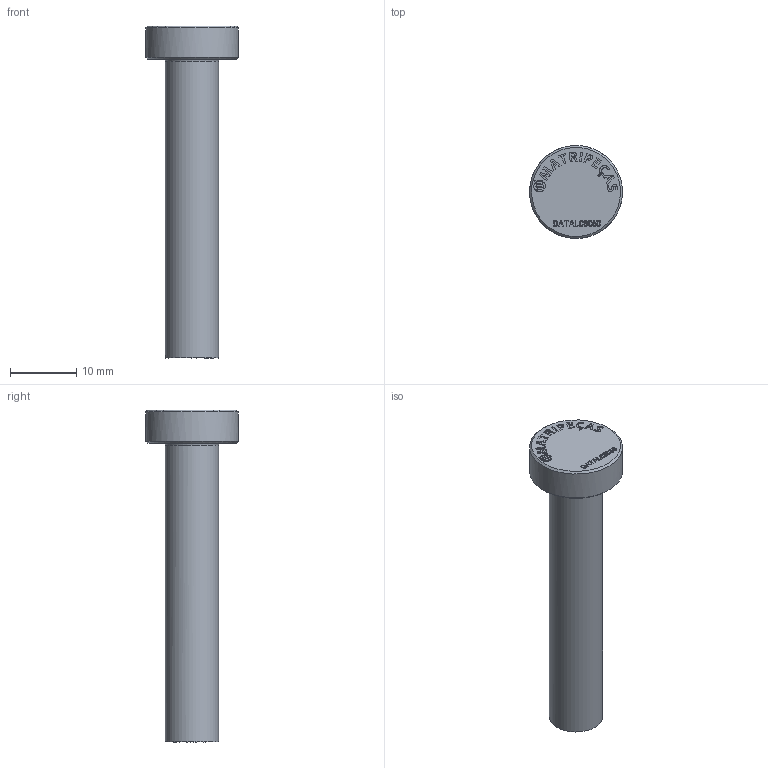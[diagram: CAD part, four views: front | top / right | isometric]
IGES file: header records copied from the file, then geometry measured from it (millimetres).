
Start section: C
Global section: file name: DATAL08050.igs; native system: By Siemens PLM Incorporated; preprocessor: XPlus GENERIC/IGES 18.0.17; author: Author; organization: Title; date: 20240719.105253; units: millimetre
Bounding box: 14 x 13.99 x 50 mm (x, y, z)
Volume: 3011 mm3; surface area: 1668.3 mm2
Topology: 1 solids, 1 shells, 337 faces, 868 edges, 570 vertices
Faces by surface type: bspline 337
